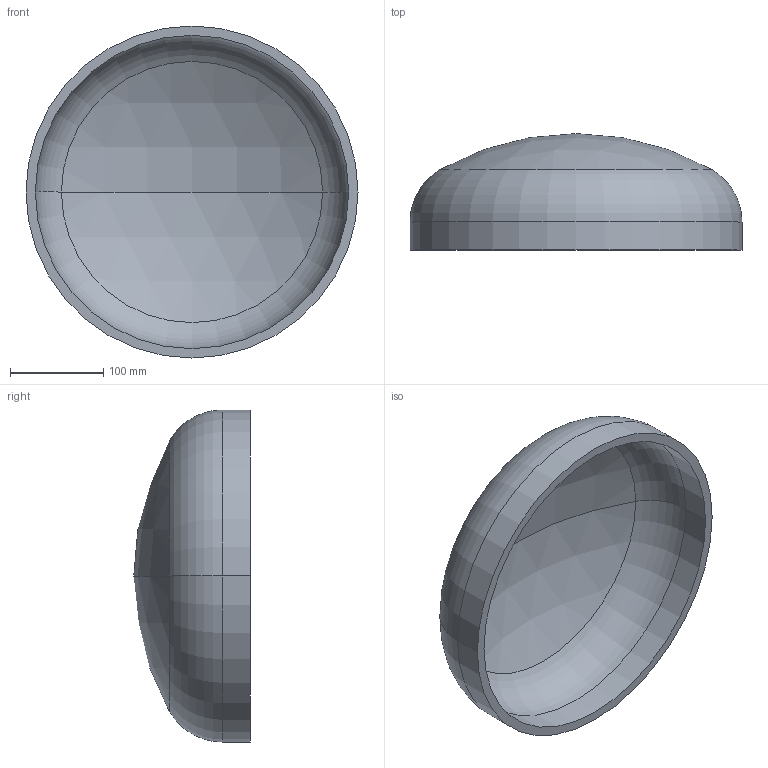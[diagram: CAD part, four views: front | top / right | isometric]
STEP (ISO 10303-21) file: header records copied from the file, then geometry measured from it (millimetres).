
FILE_DESCRIPTION (( 'STEP AP203' ), '1' );
FILE_NAME ('DIN 28013 Korbbogenform_-_Boden DIN 28013 - 355,6 x 30 - I - s=10.step', '2016-07-01T07:46:19', ( '' ), ( '' ), 'SwSTEP 2.0', 'SolidWorks 2013', '' );
FILE_SCHEMA (( 'CONFIG_CONTROL_DESIGN' ));
Length unit declared in the file: millimetre
Products named in the file (1): DIN 28013 Korbbogenform_-_Boden DIN 28013 - 355,6 x 30 - I - s=10
Bounding box: 355.6 x 124.71 x 355.6 mm (x, y, z)
Volume: 1652845 mm3; surface area: 341635.7 mm2
Topology: 1 solids, 1 shells, 13 faces, 24 edges, 14 vertices
Faces by surface type: torus 4, cylinder 4, sphere 4, plane 1
Entity records: 407 total; most frequent: DIRECTION 72, CARTESIAN_POINT 52, ORIENTED_EDGE 48, AXIS2_PLACEMENT_3D 34, EDGE_CURVE 24, CIRCLE 20, VERTEX_POINT 14, EDGE_LOOP 14
